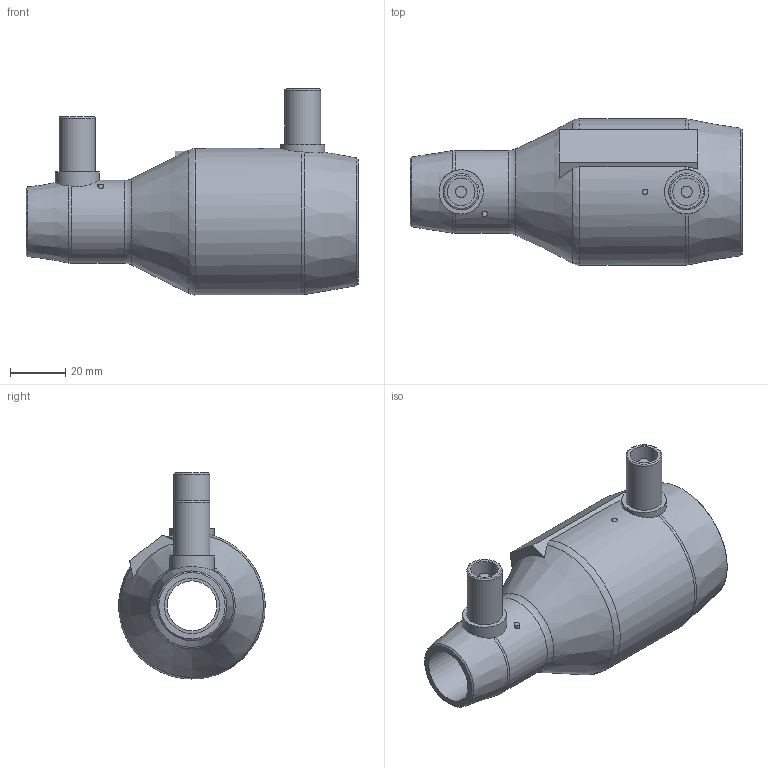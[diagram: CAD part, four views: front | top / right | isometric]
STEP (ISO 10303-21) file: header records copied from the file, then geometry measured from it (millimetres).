
FILE_DESCRIPTION(/* description */ ('Unknown'),/* implementation_level */ '2;1');
FILE_NAME(/* name */ 'REP040020C',/* time_stamp */ '2021-05-27T16:37:40+02:00',/* author */ ('Unknown'),/* organization */ ('Unknown'),/* preprocessor_version */ 'ST-DEVELOPER v16.7',/* originating_system */ 'Solid Edge',/* authorisation */ 'Unknown');
FILE_SCHEMA (('AUTOMOTIVE_DESIGN {1 0 10303 214 3 1 1}'));
Length unit declared in the file: millimetre
Products named in the file (1): REP040020C
Bounding box: 120 x 52.92 x 74.46 mm (x, y, z)
Volume: 89595 mm3; surface area: 32636.4 mm2
Topology: 1 solids, 1 shells, 50 faces, 107 edges, 70 vertices
Faces by surface type: plane 20, cylinder 17, torus 7, cone 6
Full cylindrical faces by diameter (mm): 2 x1, 4 x2, 10 x2, 13 x2, 16 x2, 18 x1, 20 x1, 30 x1, 38 x1, 40 x1
Entity records: 1242 total; most frequent: CARTESIAN_POINT 280, DIRECTION 200, ORIENTED_EDGE 146, AXIS2_PLACEMENT_3D 95, EDGE_LOOP 86, FACE_BOUND 86, EDGE_CURVE 73, VERTEX_POINT 59
